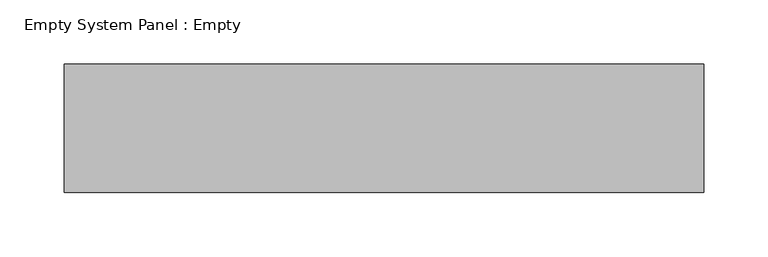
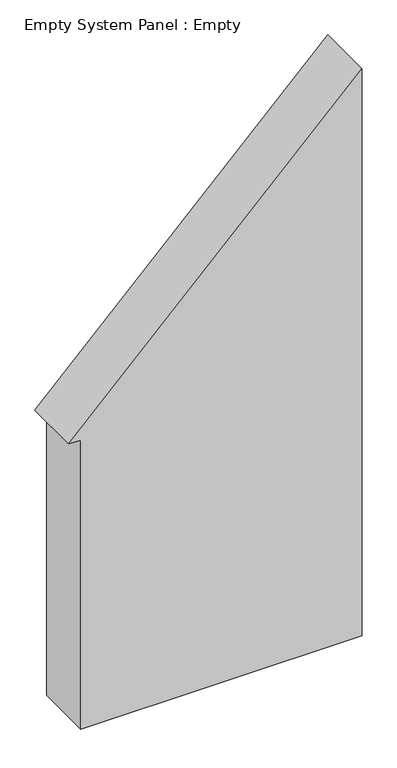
"""IFC4 building model written with IfcOpenShell, lengths in millimetres: plate geometry, Empty System Panel : Empty."""

from ifc_helpers import new_model, si_unit, frame, origin, place, context, project, spatial, polyline, outline, extrude, source, transform, mapped, element, save


def empty_system_panel_empty_025874cc(model_context):
    return source(origin(), model_context, "Body", "SweptSolid", [
        extrude(outline(polyline([(0.0, -228.680783), (0.0, 248.680783), (1016.1158676, 248.680783), (518.0716592, -248.680783), (518.0716592, -228.680783), (0.0, -228.680783)])), frame((0.0, -50.0, 0.0), z_axis=(0.0, 1.0, 0.0), x_axis=(0.0, 0.0, 1.0)), (0.0, 0.0, 1.0), 100.0),
    ])


if __name__ == "__main__":
    model = new_model("IFC4")
    model_context = context("Model", 3, world=origin())
    ifc_project = project(units=[si_unit("LENGTHUNIT", "METRE", prefix="MILLI")], contexts=[model_context])
    site = spatial("IfcSite", under=ifc_project)
    building = spatial("IfcBuilding", under=site)
    placement = place(None, origin())
    empty_system_panel_empty_shape = empty_system_panel_empty_025874cc(model_context)
    element("IfcPlate", 1, ObjectType="Empty System Panel : Empty", at=placement, inside=building, context=model_context, shape_type="MappedRepresentation", body=[
        mapped(empty_system_panel_empty_shape, transform((0.0, 0.0, 0.0), x_axis=(1.0, 0.0, 0.0), y_axis=(0.0, 1.0, 0.0), z_axis=(0.0, 0.0, 1.0))),
    ])
    save(model, "model.ifc")
